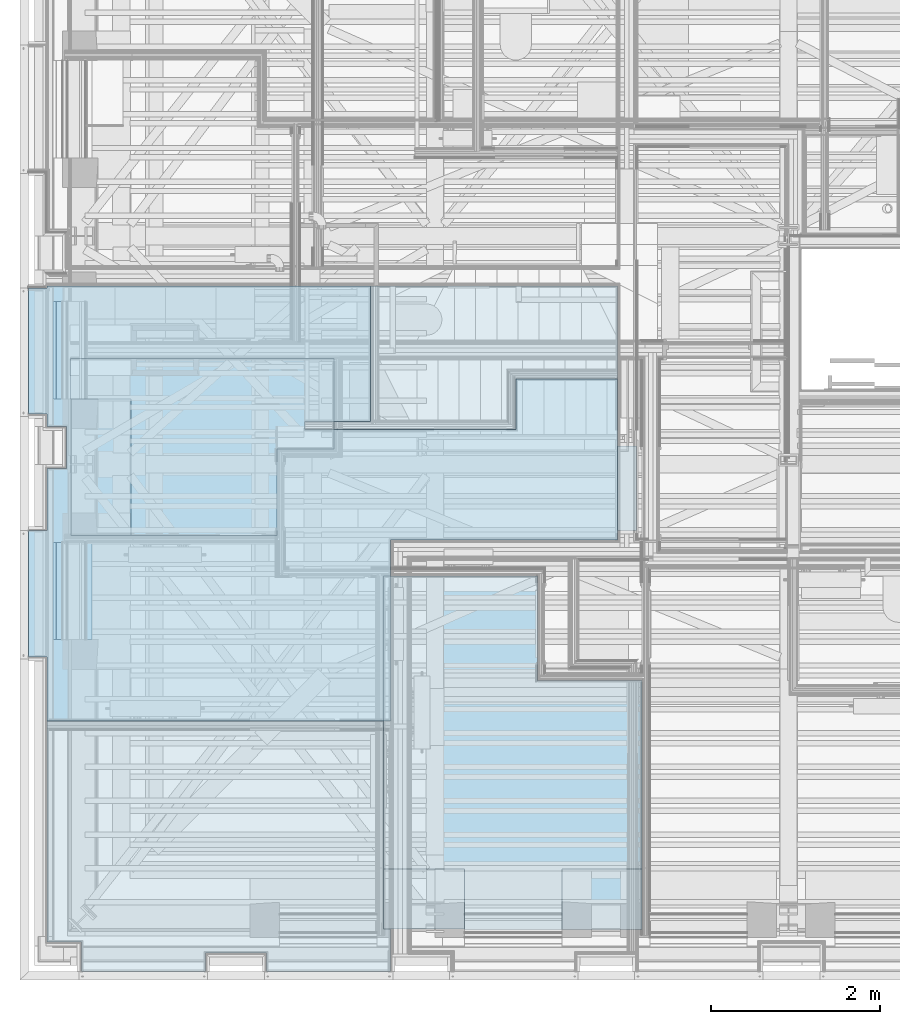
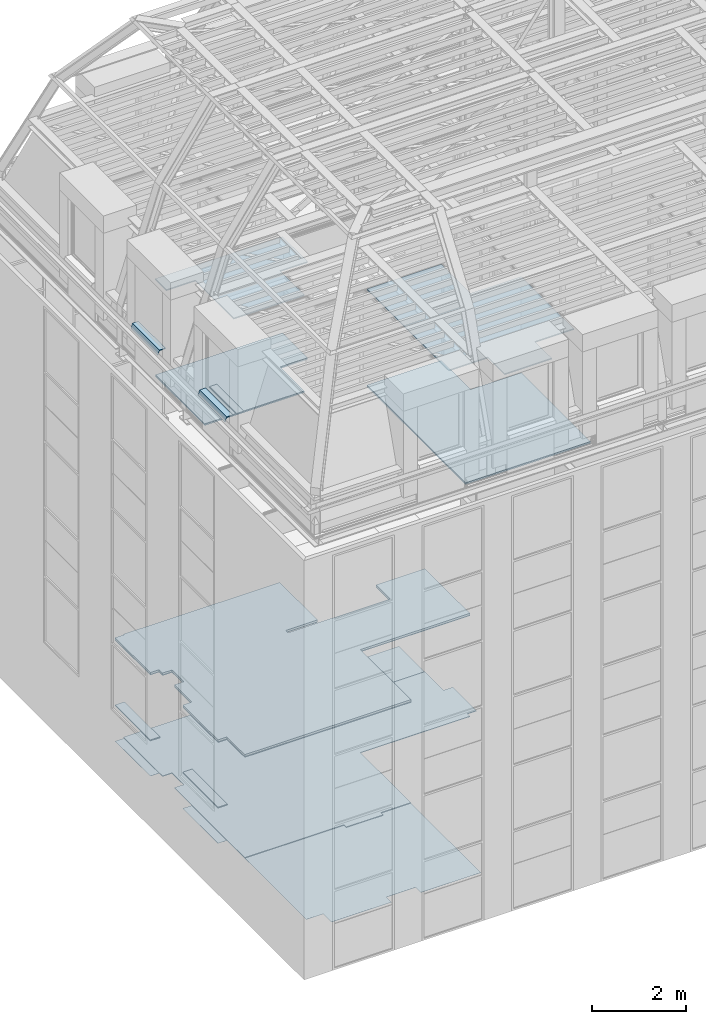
# One storey, part 82 of 183: 19 slabs.
"""IFC2X3 building model written with IfcOpenShell, lengths in metres."""

from ifc_helpers import new_model, entity, si_unit, converted_unit, derived_unit, money_unit, direction, frame, origin_with_axes, place, context, subcontext, project, spatial, faceted_brep, material, type_object, element, save


model = new_model("IFC2X3")

# Units and contexts
model_context = context("Model", 3, precision=1e-05, world=origin_with_axes(), true_north=direction((0.0, 1.0)))
body_context = subcontext(model_context, "Body", "Model", "MODEL_VIEW", scale=1.0)
ifc_project = project(units=[si_unit("LENGTHUNIT", "METRE"), si_unit("AREAUNIT", "SQUARE_METRE"), si_unit("VOLUMEUNIT", "CUBIC_METRE"), si_unit("ABSORBEDDOSEUNIT", "GRAY"), si_unit("AMOUNTOFSUBSTANCEUNIT", "MOLE"), si_unit("DOSEEQUIVALENTUNIT", "SIEVERT"), si_unit("ELECTRICCAPACITANCEUNIT", "FARAD"), si_unit("ELECTRICCHARGEUNIT", "COULOMB"), si_unit("ELECTRICCONDUCTANCEUNIT", "SIEMENS"), si_unit("ELECTRICCURRENTUNIT", "AMPERE"), si_unit("ELECTRICRESISTANCEUNIT", "OHM"), si_unit("ELECTRICVOLTAGEUNIT", "VOLT"), si_unit("ENERGYUNIT", "JOULE"), si_unit("FORCEUNIT", "NEWTON"), si_unit("FREQUENCYUNIT", "HERTZ"), si_unit("ILLUMINANCEUNIT", "LUX"), si_unit("INDUCTANCEUNIT", "HENRY"), si_unit("LUMINOUSFLUXUNIT", "LUMEN"), si_unit("LUMINOUSINTENSITYUNIT", "CANDELA"), si_unit("MAGNETICFLUXDENSITYUNIT", "TESLA"), si_unit("MAGNETICFLUXUNIT", "WEBER"), si_unit("MASSUNIT", "GRAM"), converted_unit("PLANEANGLEUNIT", "degree", entity("IfcReal", 0.0174532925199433), si_unit("PLANEANGLEUNIT", "RADIAN"), dimensions=[0, 0, 0, 0, 0, 0, 0]), si_unit("POWERUNIT", "WATT"), si_unit("PRESSUREUNIT", "PASCAL"), si_unit("RADIOACTIVITYUNIT", "BECQUEREL"), si_unit("SOLIDANGLEUNIT", "STERADIAN"), si_unit("THERMODYNAMICTEMPERATUREUNIT", "KELVIN"), si_unit("TIMEUNIT", "SECOND"), derived_unit("ACCELERATIONUNIT", [(si_unit("LENGTHUNIT", "METRE"), 1), (si_unit("TIMEUNIT", "SECOND"), -2)]), derived_unit("ANGULARVELOCITYUNIT", [(converted_unit("PLANEANGLEUNIT", "degree", entity("IfcReal", 0.0174532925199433), si_unit("PLANEANGLEUNIT", "RADIAN"), dimensions=[0, 0, 0, 0, 0, 0, 0]), 1), (si_unit("TIMEUNIT", "SECOND"), -1)]), derived_unit("CURVATUREUNIT", [(converted_unit("PLANEANGLEUNIT", "degree", entity("IfcReal", 0.0174532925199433), si_unit("PLANEANGLEUNIT", "RADIAN"), dimensions=[0, 0, 0, 0, 0, 0, 0]), 1), (si_unit("LENGTHUNIT", "METRE"), -1)]), derived_unit("DYNAMICVISCOSITYUNIT", [(si_unit("PRESSUREUNIT", "PASCAL"), 1), (si_unit("TIMEUNIT", "SECOND"), 1)]), derived_unit("HEATFLUXDENSITYUNIT", [(si_unit("POWERUNIT", "WATT"), 1), (si_unit("LENGTHUNIT", "METRE"), -2)]), derived_unit("HEATINGVALUEUNIT", [(si_unit("ENERGYUNIT", "JOULE"), 1), (si_unit("MASSUNIT", "GRAM"), -1)]), derived_unit("INTEGERCOUNTRATEUNIT", [(si_unit("TIMEUNIT", "SECOND"), -1)]), derived_unit("IONCONCENTRATIONUNIT", [(si_unit("MASSUNIT", "GRAM"), 1), (si_unit("VOLUMEUNIT", "CUBIC_METRE"), -1)]), derived_unit("ISOTHERMALMOISTURECAPACITYUNIT", [(si_unit("VOLUMEUNIT", "CUBIC_METRE"), 1), (si_unit("MASSUNIT", "GRAM"), -1)]), derived_unit("KINEMATICVISCOSITYUNIT", [(si_unit("AREAUNIT", "SQUARE_METRE"), 1), (si_unit("TIMEUNIT", "SECOND"), -1)]), derived_unit("LINEARFORCEUNIT", [(si_unit("FORCEUNIT", "NEWTON"), 1), (si_unit("LENGTHUNIT", "METRE"), -1)]), derived_unit("LINEARMOMENTUNIT", [(si_unit("FORCEUNIT", "NEWTON"), 1), (si_unit("LENGTHUNIT", "METRE"), -1)]), derived_unit("LINEARSTIFFNESSUNIT", [(si_unit("FORCEUNIT", "NEWTON"), 1), (si_unit("LENGTHUNIT", "METRE"), -1)]), derived_unit("LINEARVELOCITYUNIT", [(si_unit("LENGTHUNIT", "METRE"), 1), (si_unit("TIMEUNIT", "SECOND"), -1)]), derived_unit("LUMINOUSINTENSITYDISTRIBUTIONUNIT", [(si_unit("LUMINOUSINTENSITYUNIT", "CANDELA"), 1), (si_unit("LUMINOUSFLUXUNIT", "LUMEN"), -1)]), derived_unit("MASSDENSITYUNIT", [(si_unit("MASSUNIT", "GRAM"), 1), (si_unit("VOLUMEUNIT", "CUBIC_METRE"), -1)]), derived_unit("MASSFLOWRATEUNIT", [(si_unit("MASSUNIT", "GRAM"), 1), (si_unit("TIMEUNIT", "SECOND"), -1)]), derived_unit("MASSPERLENGTHUNIT", [(si_unit("MASSUNIT", "GRAM"), 1), (si_unit("LENGTHUNIT", "METRE"), -1)]), derived_unit("MODULUSOFELASTICITYUNIT", [(si_unit("FORCEUNIT", "NEWTON"), 1), (si_unit("AREAUNIT", "SQUARE_METRE"), -1)]), derived_unit("MODULUSOFLINEARSUBGRADEREACTIONUNIT", [(si_unit("FORCEUNIT", "NEWTON"), 1), (si_unit("LENGTHUNIT", "METRE"), -2)]), derived_unit("MODULUSOFROTATIONALSUBGRADEREACTIONUNIT", [(si_unit("FORCEUNIT", "NEWTON"), 1), (si_unit("LENGTHUNIT", "METRE"), 1)]), derived_unit("MODULUSOFSUBGRADEREACTIONUNIT", [(si_unit("FORCEUNIT", "NEWTON"), 1), (si_unit("VOLUMEUNIT", "CUBIC_METRE"), -1)]), derived_unit("MOISTUREDIFFUSIVITYUNIT", [(si_unit("VOLUMEUNIT", "CUBIC_METRE"), 1), (si_unit("TIMEUNIT", "SECOND"), -1)]), derived_unit("MOLECULARWEIGHTUNIT", [(si_unit("MASSUNIT", "GRAM"), 1), (si_unit("AMOUNTOFSUBSTANCEUNIT", "MOLE"), -1)]), derived_unit("PLANARFORCEUNIT", [(si_unit("FORCEUNIT", "NEWTON"), 1), (si_unit("LENGTHUNIT", "METRE"), -2)]), derived_unit("ROTATIONALFREQUENCYUNIT", [(si_unit("TIMEUNIT", "SECOND"), -1)]), derived_unit("ROTATIONALMASSUNIT", [(si_unit("MASSUNIT", "GRAM"), 1), (si_unit("LENGTHUNIT", "METRE"), 2)]), derived_unit("ROTATIONALSTIFFNESSUNIT", [(si_unit("FORCEUNIT", "NEWTON"), 1), (si_unit("LENGTHUNIT", "METRE"), 1), (converted_unit("PLANEANGLEUNIT", "degree", entity("IfcReal", 0.0174532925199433), si_unit("PLANEANGLEUNIT", "RADIAN"), dimensions=[0, 0, 0, 0, 0, 0, 0]), -1)]), derived_unit("SECTIONAREAINTEGRALUNIT", [(si_unit("LENGTHUNIT", "METRE"), 5)]), derived_unit("SECTIONMODULUSUNIT", [(si_unit("LENGTHUNIT", "METRE"), 3)]), derived_unit("SHEARMODULUSUNIT", [(si_unit("FORCEUNIT", "NEWTON"), 1), (si_unit("AREAUNIT", "SQUARE_METRE"), -1)]), derived_unit("SOUNDPOWERUNIT", [(si_unit("ENERGYUNIT", "JOULE"), 1), (si_unit("TIMEUNIT", "SECOND"), -1)]), derived_unit("SPECIFICHEATCAPACITYUNIT", [(si_unit("FORCEUNIT", "NEWTON"), 1), (si_unit("MASSUNIT", "GRAM"), -1), (si_unit("THERMODYNAMICTEMPERATUREUNIT", "KELVIN"), -1)]), derived_unit("TEMPERATUREGRADIENTUNIT", [(si_unit("THERMODYNAMICTEMPERATUREUNIT", "KELVIN"), 1), (si_unit("LENGTHUNIT", "METRE"), -1)]), derived_unit("THERMALADMITTANCEUNIT", [(si_unit("POWERUNIT", "WATT"), 1), (si_unit("AREAUNIT", "SQUARE_METRE"), -1), (si_unit("THERMODYNAMICTEMPERATUREUNIT", "KELVIN"), -1)]), derived_unit("THERMALCONDUCTANCEUNIT", [(si_unit("POWERUNIT", "WATT"), 1), (si_unit("LENGTHUNIT", "METRE"), -1), (si_unit("THERMODYNAMICTEMPERATUREUNIT", "KELVIN"), -1)]), derived_unit("THERMALEXPANSIONCOEFFICIENTUNIT", [(si_unit("THERMODYNAMICTEMPERATUREUNIT", "KELVIN"), -1)]), derived_unit("THERMALRESISTANCEUNIT", [(si_unit("AREAUNIT", "SQUARE_METRE"), 1), (si_unit("POWERUNIT", "WATT"), -1)]), derived_unit("THERMALTRANSMITTANCEUNIT", [(si_unit("POWERUNIT", "WATT"), 1), (si_unit("AREAUNIT", "SQUARE_METRE"), -1), (si_unit("THERMODYNAMICTEMPERATUREUNIT", "KELVIN"), -1)]), derived_unit("TORQUEUNIT", [(si_unit("FORCEUNIT", "NEWTON"), 1), (si_unit("LENGTHUNIT", "METRE"), 1)]), derived_unit("VAPORPERMEABILITYUNIT", [(si_unit("MASSUNIT", "GRAM"), 1), (si_unit("TIMEUNIT", "SECOND"), -1)]), derived_unit("VOLUMETRICFLOWRATEUNIT", [(si_unit("VOLUMEUNIT", "CUBIC_METRE"), 1), (si_unit("TIMEUNIT", "SECOND"), -1)]), derived_unit("WARPINGCONSTANTUNIT", [(si_unit("LENGTHUNIT", "METRE"), 6)]), derived_unit("WARPINGMOMENTUNIT", [(si_unit("FORCEUNIT", "NEWTON"), 1), (si_unit("LENGTHUNIT", "METRE"), 2)]), money_unit("GBP")], contexts=[model_context])

# Site, building, storey
site_placement = place(None, origin_with_axes())
site = spatial("IfcSite", under=ifc_project, at=site_placement, Name="Site", CompositionType="ELEMENT")
building_placement = place(site_placement, origin_with_axes())
building = spatial("IfcBuilding", under=site, at=building_placement, Name="Building01", CompositionType="ELEMENT")
storey_placement = place(building_placement, frame((0.0, 0.0, 5.15), z_axis=(0.0, 0.0, 1.0), x_axis=(1.0, 0.0, 0.0)))
storey = spatial("IfcBuildingStorey", under=building, at=storey_placement, Name="1F", CompositionType="ELEMENT", Elevation=5.15)

# Slabs
ifc_material_1 = material(Name="A_BSUK_ExpandedPolystyreneBoards")
slab_type_1 = type_object("IfcSlabType", Name="A-FloorsSlabs A_BSUK_Slabs", PredefinedType="FLOOR")
placement = place(storey_placement, frame((0.0, 0.0, -5.15), z_axis=(0.0, 0.0, 1.0), x_axis=(1.0, 0.0, 0.0)))
element("IfcSlab", 1, at=placement, inside=storey, type_object=slab_type_1, material=ifc_material_1, Name="A-FloorsSlabs A_BSUK_Slabs", ObjectType="CompoundSlabLeaf", context=body_context, shape_type="Brep", body=[
    faceted_brep([(0.318, 8.21067, 5.15), (0.318, 8.21067, 5.153), (7.064669, 8.21067, 5.153), (7.064669, 8.21067, 5.15), (0.318, 8.185, 5.15), (0.318, 8.185, 5.153), (0.1, 8.185, 5.15), (0.1, 8.185, 5.153), (0.1, 6.69218, 5.15), (0.1, 6.69218, 5.153), (0.318, 6.69218, 5.15), (0.318, 6.69218, 5.153), (0.318, 6.548, 5.15), (0.318, 6.548, 5.153), (0.548, 6.548, 5.15), (0.548, 6.548, 5.153), (0.548, 6.052, 5.15), (0.548, 6.052, 5.153), (0.318, 6.052, 5.15), (0.318, 6.052, 5.153), (0.318, 5.315, 5.15), (0.318, 5.315, 5.153), (0.1, 5.315, 5.15), (0.1, 5.315, 5.153), (0.1, 3.82218, 5.15), (0.1, 3.82218, 5.153), (0.318, 3.82218, 5.15), (0.318, 3.82218, 5.153), (0.318, 0.448, 5.15), (0.318, 0.448, 5.153), (0.725, 0.448, 5.15), (0.725, 0.448, 5.153), (0.725, 0.1, 5.15), (0.725, 0.1, 5.153), (2.195, 0.1, 5.15), (2.195, 0.1, 5.153), (2.195, 0.318, 5.15), (2.195, 0.318, 5.153), (2.915, 0.318, 5.15), (2.915, 0.318, 5.153), (2.915, 0.1, 5.15), (2.915, 0.1, 5.153), (4.385, 0.1, 5.15), (4.385, 0.1, 5.153), (4.385, 0.318, 5.15), (4.385, 0.318, 5.153), (4.385, 5.205, 5.15), (4.385, 5.205, 5.153), (7.064669, 5.205, 5.15), (7.064669, 5.205, 5.153), (7.064669, 5.316475, 5.15), (7.064669, 5.316475, 5.153), (7.289669, 5.316475, 5.15), (7.289669, 5.316475, 5.153), (7.289669, 6.316475, 5.15), (7.289669, 6.316475, 5.153), (7.064669, 6.316475, 5.15), (7.064669, 6.316475, 5.153)], [[[0, 1, 2, 3]], [[4, 5, 1, 0]], [[6, 7, 5, 4]], [[8, 9, 7, 6]], [[10, 11, 9, 8]], [[12, 13, 11, 10]], [[14, 15, 13, 12]], [[16, 17, 15, 14]], [[18, 19, 17, 16]], [[20, 21, 19, 18]], [[22, 23, 21, 20]], [[24, 25, 23, 22]], [[26, 27, 25, 24]], [[28, 29, 27, 26]], [[30, 31, 29, 28]], [[32, 33, 31, 30]], [[34, 35, 33, 32]], [[36, 37, 35, 34]], [[38, 39, 37, 36]], [[40, 41, 39, 38]], [[42, 43, 41, 40]], [[44, 45, 43, 42]], [[46, 47, 45, 44]], [[48, 49, 47, 46]], [[50, 51, 49, 48]], [[52, 53, 51, 50]], [[54, 55, 53, 52]], [[56, 57, 55, 54]], [[3, 2, 57, 56]], [[1, 5, 7, 9, 11, 13, 15, 17, 19, 21, 23, 25, 27, 29, 31, 33, 35, 37, 39, 41, 43, 45, 47, 49, 51, 53, 55, 57, 2]], [[3, 56, 54, 52, 50, 48, 46, 44, 42, 40, 38, 36, 34, 32, 30, 28, 26, 24, 22, 20, 18, 16, 14, 12, 10, 8, 6, 4, 0]]]),
])
ifc_material_2 = material(Name="A_BSUK_Parquet_Floor")
element("IfcSlab", 2, at=placement, inside=storey, type_object=slab_type_1, material=ifc_material_2, Name="A-FloorsSlabs A_BSUK_Slabs", ObjectType="CompoundSlabLeaf", context=body_context, shape_type="Brep", body=[
    faceted_brep([(7.289669, 6.316475, 5.153), (7.289669, 6.316475, 5.165), (7.289669, 5.316475, 5.165), (7.289669, 5.316475, 5.153), (7.064669, 6.316475, 5.153), (7.064669, 6.316475, 5.165), (7.064669, 7.111475, 5.153), (7.064669, 7.111475, 5.165), (5.864669, 7.111475, 5.153), (5.864669, 7.111475, 5.165), (5.864669, 6.511475, 5.153), (5.864669, 6.511475, 5.165), (5.679088, 6.511475, 5.153), (5.679088, 6.511475, 5.165), (5.679088, 6.606475, 5.153), (5.679088, 6.606475, 5.165), (4.929088, 6.606475, 5.153), (4.929088, 6.606475, 5.165), (4.929088, 6.511475, 5.153), (4.929088, 6.511475, 5.165), (3.37073, 6.511475, 5.153), (3.37073, 6.511475, 5.165), (3.37073, 6.606475, 5.153), (3.37073, 6.606475, 5.165), (4.14573, 6.606475, 5.153), (4.14573, 6.606475, 5.165), (4.14573, 8.21067, 5.153), (4.14573, 8.21067, 5.165), (0.318, 8.21067, 5.153), (0.318, 8.21067, 5.165), (0.318, 8.185, 5.153), (0.318, 8.185, 5.165), (0.318, 6.69218, 5.153), (0.318, 6.69218, 5.165), (0.318, 6.548, 5.153), (0.318, 6.548, 5.165), (0.548, 6.548, 5.153), (0.548, 6.548, 5.165), (0.548, 6.052, 5.153), (0.548, 6.052, 5.165), (0.318, 6.052, 5.153), (0.318, 6.052, 5.165), (0.318, 5.315, 5.153), (0.318, 5.315, 5.165), (0.318, 3.82218, 5.153), (0.318, 3.82218, 5.165), (0.318, 3.065286, 5.153), (0.318, 3.065286, 5.165), (2.751, 3.065286, 5.153), (2.751, 3.065286, 5.165), (2.751, 2.970286, 5.153), (2.751, 2.970286, 5.165), (3.651, 2.970286, 5.153), (3.651, 2.970286, 5.165), (3.651, 3.065286, 5.153), (3.651, 3.065286, 5.165), (4.385, 3.065286, 5.153), (4.385, 3.065286, 5.165), (4.385, 5.205, 5.153), (4.385, 5.205, 5.165), (7.064669, 5.205, 5.153), (7.064669, 5.205, 5.165), (7.064669, 5.316475, 5.153), (7.064669, 5.316475, 5.165)], [[[0, 1, 2, 3]], [[4, 5, 1, 0]], [[6, 7, 5, 4]], [[8, 9, 7, 6]], [[10, 11, 9, 8]], [[12, 13, 11, 10]], [[14, 15, 13, 12]], [[16, 17, 15, 14]], [[18, 19, 17, 16]], [[20, 21, 19, 18]], [[22, 23, 21, 20]], [[24, 25, 23, 22]], [[26, 27, 25, 24]], [[28, 29, 27, 26]], [[30, 31, 29, 28]], [[32, 33, 31, 30]], [[34, 35, 33, 32]], [[36, 37, 35, 34]], [[38, 39, 37, 36]], [[40, 41, 39, 38]], [[42, 43, 41, 40]], [[44, 45, 43, 42]], [[46, 47, 45, 44]], [[48, 49, 47, 46]], [[50, 51, 49, 48]], [[52, 53, 51, 50]], [[54, 55, 53, 52]], [[56, 57, 55, 54]], [[58, 59, 57, 56]], [[60, 61, 59, 58]], [[62, 63, 61, 60]], [[3, 2, 63, 62]], [[1, 5, 7, 9, 11, 13, 15, 17, 19, 21, 23, 25, 27, 29, 31, 33, 35, 37, 39, 41, 43, 45, 47, 49, 51, 53, 55, 57, 59, 61, 63, 2]], [[3, 62, 60, 58, 56, 54, 52, 50, 48, 46, 44, 42, 40, 38, 36, 34, 32, 30, 28, 26, 24, 22, 20, 18, 16, 14, 12, 10, 8, 6, 4, 0]]]),
])
ifc_material_3 = material(Name="A_BSUK_CeilingSoffitFinishes_Suspended")
element("IfcSlab", 3, at=placement, inside=storey, type_object=slab_type_1, material=ifc_material_3, Name="A-FloorsSlabs A_BSUK_Slabs", ObjectType="CompoundSlabLeaf", context=body_context, shape_type="Brep", body=[
    faceted_brep([(7.064669, 6.466475, 7.765), (7.064669, 6.466475, 7.78), (7.064669, 5.466475, 7.78), (7.064669, 5.466475, 7.765), (7.064669, 7.111475, 7.765), (7.064669, 7.111475, 7.78), (5.864669, 7.111475, 7.765), (5.864669, 7.111475, 7.78), (5.864669, 6.511475, 7.765), (5.864669, 6.511475, 7.78), (5.771088, 6.511475, 7.765), (5.771088, 6.511475, 7.78), (4.937088, 6.511475, 7.765), (4.937088, 6.511475, 7.78), (3.37073, 6.511475, 7.765), (3.37073, 6.511475, 7.78), (3.37073, 6.606475, 7.765), (3.37073, 6.606475, 7.78), (4.14573, 6.606475, 7.765), (4.14573, 6.606475, 7.78), (4.14573, 8.21067, 7.765), (4.14573, 8.21067, 7.78), (0.318, 8.21067, 7.765), (0.318, 8.21067, 7.78), (0.318, 8.185, 7.765), (0.318, 8.185, 7.78), (0.1, 8.185, 7.765), (0.1, 8.185, 7.78), (0.1, 6.69218, 7.765), (0.1, 6.69218, 7.78), (0.318, 6.69218, 7.765), (0.318, 6.69218, 7.78), (0.318, 6.548, 7.765), (0.318, 6.548, 7.78), (0.548, 6.548, 7.765), (0.548, 6.548, 7.78), (0.548, 6.052, 7.765), (0.548, 6.052, 7.78), (0.318, 6.052, 7.765), (0.318, 6.052, 7.78), (0.318, 5.315, 7.765), (0.318, 5.315, 7.78), (0.1, 5.315, 7.765), (0.1, 5.315, 7.78), (0.1, 3.82218, 7.765), (0.1, 3.82218, 7.78), (0.318, 3.82218, 7.765), (0.318, 3.82218, 7.78), (0.318, 3.065286, 7.765), (0.318, 3.065286, 7.78), (4.385, 3.065286, 7.765), (4.385, 3.065286, 7.78), (4.385, 5.205, 7.765), (4.385, 5.205, 7.78), (7.064669, 5.205, 7.765), (7.064669, 5.205, 7.78)], [[[0, 1, 2, 3]], [[4, 5, 1, 0]], [[6, 7, 5, 4]], [[8, 9, 7, 6]], [[10, 11, 9, 8]], [[12, 13, 11, 10]], [[14, 15, 13, 12]], [[16, 17, 15, 14]], [[18, 19, 17, 16]], [[20, 21, 19, 18]], [[22, 23, 21, 20]], [[24, 25, 23, 22]], [[26, 27, 25, 24]], [[28, 29, 27, 26]], [[30, 31, 29, 28]], [[32, 33, 31, 30]], [[34, 35, 33, 32]], [[36, 37, 35, 34]], [[38, 39, 37, 36]], [[40, 41, 39, 38]], [[42, 43, 41, 40]], [[44, 45, 43, 42]], [[46, 47, 45, 44]], [[48, 49, 47, 46]], [[50, 51, 49, 48]], [[52, 53, 51, 50]], [[54, 55, 53, 52]], [[3, 2, 55, 54]], [[1, 5, 7, 9, 11, 13, 15, 17, 19, 21, 23, 25, 27, 29, 31, 33, 35, 37, 39, 41, 43, 45, 47, 49, 51, 53, 55, 2]], [[3, 54, 52, 50, 48, 46, 44, 42, 40, 38, 36, 34, 32, 30, 28, 26, 24, 22, 20, 18, 16, 14, 12, 10, 8, 6, 4, 0]]]),
])
ifc_material_4 = material(Name="A_BSUK_Timber_Miscellaneous")
element("IfcSlab", 4, at=placement, inside=storey, type_object=slab_type_1, material=ifc_material_4, Name="A-FloorsSlabs A_BSUK_Slabs", ObjectType="CompoundSlabLeaf", context=body_context, shape_type="Brep", body=[
    faceted_brep([(0.333, 3.82218, 6.065), (0.333, 3.82218, 6.09), (0.099998, 3.82218, 6.09), (0.099998, 3.82218, 6.065), (0.333, 5.315, 6.065), (0.333, 5.315, 6.09), (0.1, 5.315, 6.065), (0.1, 5.315, 6.09)], [[[0, 1, 2, 3]], [[4, 5, 1, 0]], [[6, 7, 5, 4]], [[3, 2, 7, 6]], [[1, 5, 7, 2]], [[3, 6, 4, 0]]]),
])
element("IfcSlab", 5, at=placement, inside=storey, type_object=slab_type_1, material=ifc_material_4, Name="A-FloorsSlabs A_BSUK_Slabs", ObjectType="CompoundSlabLeaf", context=body_context, shape_type="Brep", body=[
    faceted_brep([(0.333, 6.69218, 6.065), (0.333, 6.69218, 6.09), (0.099998, 6.69218, 6.09), (0.099998, 6.69218, 6.065), (0.333, 8.185, 6.065), (0.333, 8.185, 6.09), (0.1, 8.185, 6.065), (0.1, 8.185, 6.09)], [[[0, 1, 2, 3]], [[4, 5, 1, 0]], [[6, 7, 5, 4]], [[3, 2, 7, 6]], [[1, 5, 7, 2]], [[3, 6, 4, 0]]]),
])
slab_6_placement = place(storey_placement, frame((0.575339, 8.024915, 10.78), z_axis=(0.0, 0.0, 1.0), x_axis=(0.0, 1.0, 0.0)))
element("IfcSlab", 6, at=slab_6_placement, inside=storey, type_object=slab_type_1, material=ifc_material_4, Name="A-FloorsSlabs A_BSUK_Slabs", ObjectType="A-FloorsSlabs A_BSUK_Slabs", context=body_context, shape_type="Brep", body=[
    faceted_brep([(0.0, 0.0, 0.022498), (-1.15, 0.0, 0.022498), (-1.15, 0.0, 0.0), (0.0, 0.0, 0.0), (0.0, 0.142391, 0.017505), (-1.15, 0.142391, 0.017505), (0.0, 0.148079, 0.0), (-1.15, 0.148079, 0.0)], [[[0, 1, 2, 3]], [[4, 5, 1, 0]], [[6, 7, 5, 4]], [[3, 2, 7, 6]], [[1, 5, 7, 2]], [[3, 6, 4, 0]]]),
])
ifc_material_5 = material(Name="A_BSUK_Steel_Miscellaneous")
slab_7_placement = place(storey_placement, frame((0.575339, 8.024915, 10.802498), z_axis=(0.0, 0.0, 1.0), x_axis=(0.0, 1.0, 0.0)))
element("IfcSlab", 7, at=slab_7_placement, inside=storey, type_object=slab_type_1, material=ifc_material_5, Name="A-FloorsSlabs A_BSUK_Slabs", ObjectType="A-FloorsSlabs A_BSUK_Slabs", context=body_context, shape_type="Brep", body=[
    faceted_brep([(0.0, 0.0, 0.007502), (-1.15, 0.0, 0.007502), (-1.15, 0.0, 0.0), (0.0, 0.0, 0.0), (0.0, 0.001, 0.007502), (-1.15, 0.001, 0.007502), (0.0, 0.0025, 0.002414), (-1.15, 0.0025, 0.002414), (0.0, 0.144228, -0.002556), (-1.15, 0.144228, -0.002556), (0.0, 0.183199, -0.122498), (-1.15, 0.183199, -0.122498), (0.0, 0.183199, -0.127498), (-1.15, 0.183199, -0.127498), (0.0, 0.180699, -0.127498), (-1.15, 0.180699, -0.127498), (0.0, 0.180699, -0.122894), (-1.15, 0.180699, -0.122894), (0.0, 0.142391, -0.004993), (-1.15, 0.142391, -0.004993)], [[[0, 1, 2, 3]], [[4, 5, 1, 0]], [[6, 7, 5, 4]], [[8, 9, 7, 6]], [[10, 11, 9, 8]], [[12, 13, 11, 10]], [[14, 15, 13, 12]], [[16, 17, 15, 14]], [[18, 19, 17, 16]], [[3, 2, 19, 18]], [[1, 5, 7, 9, 11, 13, 15, 17, 19, 2]], [[3, 18, 16, 14, 12, 10, 8, 6, 4, 0]]]),
])
slab_8_placement = place(storey_placement, frame((0.575339, 5.174976, 10.78), z_axis=(0.0, 0.0, 1.0), x_axis=(0.0, 1.0, 0.0)))
element("IfcSlab", 8, at=slab_8_placement, inside=storey, type_object=slab_type_1, material=ifc_material_4, Name="A-FloorsSlabs A_BSUK_Slabs", ObjectType="A-FloorsSlabs A_BSUK_Slabs", context=body_context, shape_type="Brep", body=[
    faceted_brep([(0.0, 0.0, 0.022498), (-1.15, 0.0, 0.022498), (-1.15, 0.0, 0.0), (0.0, 0.0, 0.0), (0.0, 0.142391, 0.017505), (-1.15, 0.142391, 0.017505), (0.0, 0.148079, 0.0), (-1.15, 0.148079, 0.0)], [[[0, 1, 2, 3]], [[4, 5, 1, 0]], [[6, 7, 5, 4]], [[3, 2, 7, 6]], [[1, 5, 7, 2]], [[3, 6, 4, 0]]]),
])
slab_9_placement = place(storey_placement, frame((0.575339, 5.174976, 10.802498), z_axis=(0.0, 0.0, 1.0), x_axis=(0.0, 1.0, 0.0)))
element("IfcSlab", 9, at=slab_9_placement, inside=storey, type_object=slab_type_1, material=ifc_material_5, Name="A-FloorsSlabs A_BSUK_Slabs", ObjectType="A-FloorsSlabs A_BSUK_Slabs", context=body_context, shape_type="Brep", body=[
    faceted_brep([(0.0, 0.0, 0.007502), (-1.15, 0.0, 0.007502), (-1.15, 0.0, 0.0), (0.0, 0.0, 0.0), (0.0, 0.001, 0.007502), (-1.15, 0.001, 0.007502), (0.0, 0.0025, 0.002414), (-1.15, 0.0025, 0.002414), (0.0, 0.144228, -0.002556), (-1.15, 0.144228, -0.002556), (0.0, 0.183199, -0.122498), (-1.15, 0.183199, -0.122498), (0.0, 0.183199, -0.127498), (-1.15, 0.183199, -0.127498), (0.0, 0.180699, -0.127498), (-1.15, 0.180699, -0.127498), (0.0, 0.180699, -0.122894), (-1.15, 0.180699, -0.122894), (0.0, 0.142391, -0.004993), (-1.15, 0.142391, -0.004993)], [[[0, 1, 2, 3]], [[4, 5, 1, 0]], [[6, 7, 5, 4]], [[8, 9, 7, 6]], [[10, 11, 9, 8]], [[12, 13, 11, 10]], [[14, 15, 13, 12]], [[16, 17, 15, 14]], [[18, 19, 17, 16]], [[3, 2, 19, 18]], [[1, 5, 7, 9, 11, 13, 15, 17, 19, 2]], [[3, 18, 16, 14, 12, 10, 8, 6, 4, 0]]]),
])
element("IfcSlab", 10, at=placement, inside=storey, type_object=slab_type_1, material=ifc_material_3, Name="A-FloorsSlabs A_BSUK_Slabs", ObjectType="CompoundSlabLeaf", context=body_context, shape_type="Brep", body=[
    faceted_brep([(7.36, 3.539939, 17.423), (7.36, 3.539939, 17.438), (7.36, 1.312402, 17.438), (7.36, 1.312402, 17.423), (6.120098, 3.539939, 17.423), (6.120098, 3.539939, 17.438), (6.120098, 4.779939, 17.423), (6.120098, 4.779939, 17.438), (4.299976, 4.779939, 17.423), (4.299976, 4.779939, 17.438), (4.299976, 1.312402, 17.423), (4.299976, 1.312402, 17.438), (5.260024, 1.312402, 17.423), (5.260024, 1.312402, 17.438), (5.260024, 0.599939, 17.423), (5.260024, 0.599939, 17.438), (6.409976, 0.599939, 17.423), (6.409976, 0.599939, 17.438), (6.409976, 1.312402, 17.423), (6.409976, 1.312402, 17.438)], [[[0, 1, 2, 3]], [[4, 5, 1, 0]], [[6, 7, 5, 4]], [[8, 9, 7, 6]], [[10, 11, 9, 8]], [[12, 13, 11, 10]], [[14, 15, 13, 12]], [[16, 17, 15, 14]], [[18, 19, 17, 16]], [[3, 2, 19, 18]], [[1, 5, 7, 9, 11, 13, 15, 17, 19, 2]], [[3, 18, 16, 14, 12, 10, 8, 6, 4, 0]]]),
])
element("IfcSlab", 11, at=placement, inside=storey, type_object=slab_type_1, material=ifc_material_3, Name="A-FloorsSlabs A_BSUK_Slabs", ObjectType="CompoundSlabLeaf", context=body_context, shape_type="Brep", body=[
    faceted_brep([(3.715111, 7.284939, 17.423), (3.715111, 7.284939, 17.438), (3.715111, 6.279939, 17.438), (3.715111, 6.279939, 17.423), (3.715111, 7.349939, 17.423), (3.715111, 7.349939, 17.438), (0.599939, 7.349939, 17.423), (0.599939, 7.349939, 17.438), (0.599939, 6.874964, 17.423), (0.599939, 6.874964, 17.438), (1.312402, 6.874964, 17.423), (1.312402, 6.874964, 17.438), (1.312402, 5.254976, 17.423), (1.312402, 5.254976, 17.438), (3.039976, 5.254976, 17.423), (3.039976, 5.254976, 17.438), (3.039976, 6.279939, 17.423), (3.039976, 6.279939, 17.438)], [[[0, 1, 2, 3]], [[4, 5, 1, 0]], [[6, 7, 5, 4]], [[8, 9, 7, 6]], [[10, 11, 9, 8]], [[12, 13, 11, 10]], [[14, 15, 13, 12]], [[16, 17, 15, 14]], [[3, 2, 17, 16]], [[1, 5, 7, 9, 11, 13, 15, 17, 2]], [[3, 16, 14, 12, 10, 8, 6, 4, 0]]]),
])
element("IfcSlab", 12, at=placement, inside=storey, type_object=slab_type_1, material=ifc_material_1, Name="A-FloorsSlabs A_BSUK_Slabs", ObjectType="CompoundSlabLeaf", context=body_context, shape_type="Brep", body=[
    faceted_brep([(7.36, 3.539939, 14.92), (7.36, 3.539939, 14.952), (7.36, 0.599916, 14.952), (7.36, 0.599916, 14.92), (6.120098, 3.539939, 14.92), (6.120098, 3.539939, 14.952), (6.120098, 4.779939, 14.92), (6.120098, 4.779939, 14.952), (4.299976, 4.779939, 14.92), (4.299976, 4.779939, 14.952), (4.299976, 0.6038, 14.92), (4.299976, 0.6038, 14.952), (5.260024, 0.6038, 14.92), (5.260024, 0.6038, 14.952), (6.409976, 0.6038, 14.92), (6.409976, 0.6038, 14.952), (6.409976, 0.599916, 14.92), (6.409976, 0.599916, 14.952)], [[[0, 1, 2, 3]], [[4, 5, 1, 0]], [[6, 7, 5, 4]], [[8, 9, 7, 6]], [[10, 11, 9, 8]], [[12, 13, 11, 10]], [[14, 15, 13, 12]], [[16, 17, 15, 14]], [[3, 2, 17, 16]], [[1, 5, 7, 9, 11, 13, 15, 17, 2]], [[3, 16, 14, 12, 10, 8, 6, 4, 0]]]),
])
element("IfcSlab", 13, at=placement, inside=storey, type_object=slab_type_1, material=ifc_material_1, Name="A-FloorsSlabs A_BSUK_Slabs", ObjectType="CompoundSlabLeaf", context=body_context, shape_type="Brep", body=[
    faceted_brep([(3.715111, 7.284939, 14.92), (3.715111, 7.284939, 14.952), (3.715111, 6.279939, 14.952), (3.715111, 6.279939, 14.92), (3.715111, 7.349939, 14.92), (3.715111, 7.349939, 14.952), (0.6038, 7.349939, 14.92), (0.6038, 7.349939, 14.952), (0.6038, 5.254976, 14.92), (0.6038, 5.254976, 14.952), (1.312402, 5.254976, 14.92), (1.312402, 5.254976, 14.952), (3.039976, 5.254976, 14.92), (3.039976, 5.254976, 14.952), (3.039976, 6.279939, 14.92), (3.039976, 6.279939, 14.952)], [[[0, 1, 2, 3]], [[4, 5, 1, 0]], [[6, 7, 5, 4]], [[8, 9, 7, 6]], [[10, 11, 9, 8]], [[12, 13, 11, 10]], [[14, 15, 13, 12]], [[3, 2, 15, 14]], [[1, 5, 7, 9, 11, 13, 15, 2]], [[3, 14, 12, 10, 8, 6, 4, 0]]]),
])
element("IfcSlab", 14, at=placement, inside=storey, type_object=slab_type_1, material=ifc_material_4, Name="A-FloorsSlabs A_BSUK_Slabs", ObjectType="CompoundSlabLeaf", context=body_context, shape_type="Brep", body=[
    faceted_brep([(0.849939, 4.024964, 15.93), (0.849939, 4.024964, 15.955), (0.675339, 4.024915, 15.955), (0.675339, 4.024915, 15.93), (0.849939, 5.174964, 15.93), (0.849939, 5.174964, 15.955), (0.675339, 5.174964, 15.93), (0.675339, 5.174964, 15.955)], [[[0, 1, 2, 3]], [[4, 5, 1, 0]], [[6, 7, 5, 4]], [[3, 2, 7, 6]], [[1, 5, 7, 2]], [[3, 6, 4, 0]]]),
])
element("IfcSlab", 15, at=placement, inside=storey, type_object=slab_type_1, material=ifc_material_3, Name="A-FloorsSlabs A_BSUK_Slabs", ObjectType="CompoundSlabLeaf", context=body_context, shape_type="Brep", body=[
    faceted_brep([(7.36, 3.539939, 17.438), (7.36, 3.539939, 17.453), (7.36, 1.312402, 17.453), (7.36, 1.312402, 17.438), (6.120098, 3.539939, 17.438), (6.120098, 3.539939, 17.453), (6.120098, 4.779939, 17.438), (6.120098, 4.779939, 17.453), (4.299976, 4.779939, 17.438), (4.299976, 4.779939, 17.453), (4.299976, 1.312402, 17.438), (4.299976, 1.312402, 17.453), (5.260024, 1.312402, 17.438), (5.260024, 1.312402, 17.453), (5.260024, 0.599939, 17.438), (5.260024, 0.599939, 17.453), (6.409976, 0.599939, 17.438), (6.409976, 0.599939, 17.453), (6.409976, 1.312402, 17.438), (6.409976, 1.312402, 17.453)], [[[0, 1, 2, 3]], [[4, 5, 1, 0]], [[6, 7, 5, 4]], [[8, 9, 7, 6]], [[10, 11, 9, 8]], [[12, 13, 11, 10]], [[14, 15, 13, 12]], [[16, 17, 15, 14]], [[18, 19, 17, 16]], [[3, 2, 19, 18]], [[1, 5, 7, 9, 11, 13, 15, 17, 19, 2]], [[3, 18, 16, 14, 12, 10, 8, 6, 4, 0]]]),
])
element("IfcSlab", 16, at=placement, inside=storey, type_object=slab_type_1, material=ifc_material_3, Name="A-FloorsSlabs A_BSUK_Slabs", ObjectType="CompoundSlabLeaf", context=body_context, shape_type="Brep", body=[
    faceted_brep([(3.715111, 7.284939, 17.438), (3.715111, 7.284939, 17.453), (3.715111, 6.279939, 17.453), (3.715111, 6.279939, 17.438), (3.715111, 7.349939, 17.438), (3.715111, 7.349939, 17.453), (0.599939, 7.349939, 17.438), (0.599939, 7.349939, 17.453), (0.599939, 6.874964, 17.438), (0.599939, 6.874964, 17.453), (1.312402, 6.874964, 17.438), (1.312402, 6.874964, 17.453), (1.312402, 5.254976, 17.438), (1.312402, 5.254976, 17.453), (3.039976, 5.254976, 17.438), (3.039976, 5.254976, 17.453), (3.039976, 6.279939, 17.438), (3.039976, 6.279939, 17.453)], [[[0, 1, 2, 3]], [[4, 5, 1, 0]], [[6, 7, 5, 4]], [[8, 9, 7, 6]], [[10, 11, 9, 8]], [[12, 13, 11, 10]], [[14, 15, 13, 12]], [[16, 17, 15, 14]], [[3, 2, 17, 16]], [[1, 5, 7, 9, 11, 13, 15, 17, 2]], [[3, 16, 14, 12, 10, 8, 6, 4, 0]]]),
])
ifc_material_6 = material(Name="A_BSUK_Ceramic_FloorTiles")
slab_type_2 = type_object("IfcSlabType", Name="A-Finishes A_BSUK_Ceramic_FloorTiles", PredefinedType="FLOOR")
element("IfcSlab", 17, at=placement, inside=storey, type_object=slab_type_2, material=ifc_material_6, Name="A-Finishes A_BSUK_Ceramic_FloorTiles", ObjectType="CompoundSlabLeaf", context=body_context, shape_type="Brep", body=[
    faceted_brep([(3.715111, 7.284939, 14.952), (3.715111, 7.284939, 14.964), (3.715111, 6.279939, 14.964), (3.715111, 6.279939, 14.952), (3.715111, 7.349939, 14.952), (3.715111, 7.349939, 14.964), (0.6038, 7.349939, 14.952), (0.6038, 7.349939, 14.964), (0.6038, 6.874964, 14.952), (0.6038, 6.874964, 14.964), (0.6038, 5.254976, 14.952), (0.6038, 5.254976, 14.964), (3.039976, 5.254976, 14.952), (3.039976, 5.254976, 14.964), (3.039976, 6.279939, 14.952), (3.039976, 6.279939, 14.964)], [[[0, 1, 2, 3]], [[4, 5, 1, 0]], [[6, 7, 5, 4]], [[8, 9, 7, 6]], [[10, 11, 9, 8]], [[12, 13, 11, 10]], [[14, 15, 13, 12]], [[3, 2, 15, 14]], [[1, 5, 7, 9, 11, 13, 15, 2]], [[3, 14, 12, 10, 8, 6, 4, 0]]]),
])
slab_type_3 = type_object("IfcSlabType", Name="A-FloorsSlabs A_BSUK_ExpandedPolystyreneBoards", PredefinedType="FLOOR")
element("IfcSlab", 18, at=placement, inside=storey, type_object=slab_type_3, material=ifc_material_1, Name="A-FloorsSlabs A_BSUK_ExpandedPolystyreneBoards", ObjectType="CompoundSlabLeaf", context=body_context, shape_type="Brep", body=[
    faceted_brep([(7.064669, 6.466475, 7.78), (7.064669, 6.466475, 7.83), (7.064669, 5.466475, 7.83), (7.064669, 5.466475, 7.78), (7.064669, 7.111475, 7.78), (7.064669, 7.111475, 7.83), (5.864669, 7.111475, 7.78), (5.864669, 7.111475, 7.83), (5.864669, 6.511475, 7.78), (5.864669, 6.511475, 7.83), (5.771088, 6.511475, 7.78), (5.771088, 6.511475, 7.83), (4.937088, 6.511475, 7.78), (4.937088, 6.511475, 7.83), (3.37073, 6.511475, 7.78), (3.37073, 6.511475, 7.83), (3.37073, 6.606475, 7.78), (3.37073, 6.606475, 7.83), (4.14573, 6.606475, 7.78), (4.14573, 6.606475, 7.83), (4.14573, 8.21067, 7.78), (4.14573, 8.21067, 7.83), (0.318, 8.21067, 7.78), (0.318, 8.21067, 7.83), (0.318, 8.185, 7.78), (0.318, 8.185, 7.83), (0.1, 8.185, 7.78), (0.1, 8.185, 7.83), (0.1, 6.69218, 7.78), (0.1, 6.69218, 7.83), (0.318, 6.69218, 7.78), (0.318, 6.69218, 7.83), (0.318, 6.548, 7.78), (0.318, 6.548, 7.83), (0.548, 6.548, 7.78), (0.548, 6.548, 7.83), (0.548, 6.052, 7.78), (0.548, 6.052, 7.83), (0.318, 6.052, 7.78), (0.318, 6.052, 7.83), (0.318, 5.315, 7.78), (0.318, 5.315, 7.83), (0.1, 5.315, 7.78), (0.1, 5.315, 7.83), (0.1, 3.82218, 7.78), (0.1, 3.82218, 7.83), (0.318, 3.82218, 7.78), (0.318, 3.82218, 7.83), (0.318, 3.065286, 7.78), (0.318, 3.065286, 7.83), (4.385, 3.065286, 7.78), (4.385, 3.065286, 7.83), (4.385, 5.205, 7.78), (4.385, 5.205, 7.83), (7.064669, 5.205, 7.78), (7.064669, 5.205, 7.83)], [[[0, 1, 2, 3]], [[4, 5, 1, 0]], [[6, 7, 5, 4]], [[8, 9, 7, 6]], [[10, 11, 9, 8]], [[12, 13, 11, 10]], [[14, 15, 13, 12]], [[16, 17, 15, 14]], [[18, 19, 17, 16]], [[20, 21, 19, 18]], [[22, 23, 21, 20]], [[24, 25, 23, 22]], [[26, 27, 25, 24]], [[28, 29, 27, 26]], [[30, 31, 29, 28]], [[32, 33, 31, 30]], [[34, 35, 33, 32]], [[36, 37, 35, 34]], [[38, 39, 37, 36]], [[40, 41, 39, 38]], [[42, 43, 41, 40]], [[44, 45, 43, 42]], [[46, 47, 45, 44]], [[48, 49, 47, 46]], [[50, 51, 49, 48]], [[52, 53, 51, 50]], [[54, 55, 53, 52]], [[3, 2, 55, 54]], [[1, 5, 7, 9, 11, 13, 15, 17, 19, 21, 23, 25, 27, 29, 31, 33, 35, 37, 39, 41, 43, 45, 47, 49, 51, 53, 55, 2]], [[3, 54, 52, 50, 48, 46, 44, 42, 40, 38, 36, 34, 32, 30, 28, 26, 24, 22, 20, 18, 16, 14, 12, 10, 8, 6, 4, 0]]]),
])
ifc_material_7 = material(Name="A_BSUK_Carpet-Pile")
slab_type_4 = type_object("IfcSlabType", Name="A-Finishes A_BSUK_Carpet-Pile", PredefinedType="FLOOR")
element("IfcSlab", 19, at=placement, inside=storey, type_object=slab_type_4, material=ifc_material_7, Name="A-Finishes A_BSUK_Carpet-Pile", ObjectType="CompoundSlabLeaf", context=body_context, shape_type="Brep", body=[
    faceted_brep([(7.36, 3.539939, 14.952), (7.36, 3.539939, 14.964), (7.36, 0.599916, 14.964), (7.36, 0.599916, 14.952), (6.120098, 3.539939, 14.952), (6.120098, 3.539939, 14.964), (6.120098, 4.779939, 14.952), (6.120098, 4.779939, 14.964), (4.299976, 4.779939, 14.952), (4.299976, 4.779939, 14.964), (4.299976, 0.6038, 14.952), (4.299976, 0.6038, 14.964), (5.260024, 0.6038, 14.952), (5.260024, 0.6038, 14.964), (6.409976, 0.6038, 14.952), (6.409976, 0.6038, 14.964), (6.409976, 0.599916, 14.952), (6.409976, 0.599916, 14.964)], [[[0, 1, 2, 3]], [[4, 5, 1, 0]], [[6, 7, 5, 4]], [[8, 9, 7, 6]], [[10, 11, 9, 8]], [[12, 13, 11, 10]], [[14, 15, 13, 12]], [[16, 17, 15, 14]], [[3, 2, 17, 16]], [[1, 5, 7, 9, 11, 13, 15, 17, 2]], [[3, 16, 14, 12, 10, 8, 6, 4, 0]]]),
])

save(model, "model.ifc")
